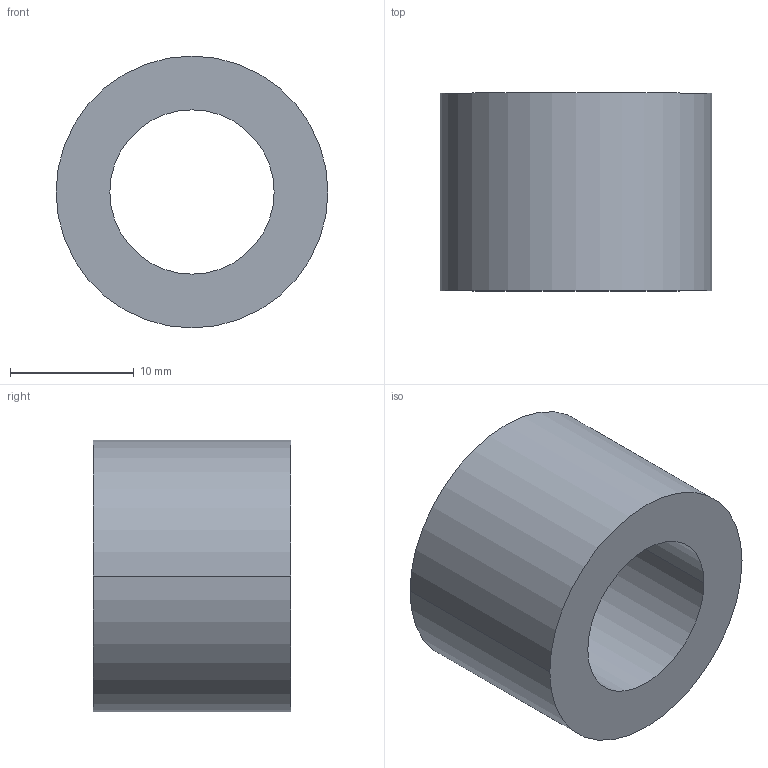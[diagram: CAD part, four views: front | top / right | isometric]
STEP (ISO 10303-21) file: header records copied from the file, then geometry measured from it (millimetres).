
FILE_DESCRIPTION (( 'STEP AP203' ), '1' );
FILE_NAME ('30800.WPP22F13.3.step', '2019-01-23T22:41:14', ( '' ), ( '' ), 'SwSTEP 2.0', 'SolidWorks 2017', '' );
FILE_SCHEMA (( 'CONFIG_CONTROL_DESIGN' ));
Length unit declared in the file: millimetre
Products named in the file (1): 30800.WPP22F13.3
Bounding box: 22 x 16 x 22 mm (x, y, z)
Volume: 3821 mm3; surface area: 2222.7 mm2
Topology: 1 solids, 1 shells, 8 faces, 16 edges, 10 vertices
Faces by surface type: cylinder 4, torus 2, plane 2
Entity records: 297 total; most frequent: DIRECTION 46, CARTESIAN_POINT 35, ORIENTED_EDGE 32, AXIS2_PLACEMENT_3D 21, EDGE_CURVE 16, CIRCLE 12, VERTEX_POINT 10, EDGE_LOOP 10
